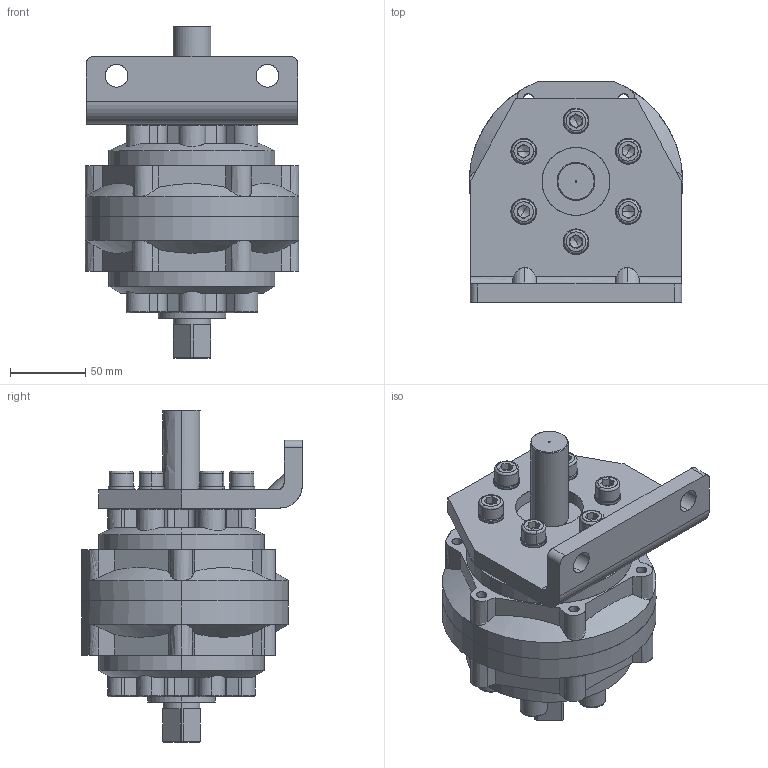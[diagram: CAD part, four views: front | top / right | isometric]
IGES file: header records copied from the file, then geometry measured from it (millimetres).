
Start section: SolidWorks IGES file using analytic representation for surfaces
Global section: file name: C:\Users\Chieh_Lu\Dropbox\¤u§@«Ç\PRN50-150-300-800\PRN300\PRN300\PRN300#-#-#-L1.IGS; native system: SolidWorks 2014; preprocessor: SolidWorks 2014; author: Chieh_Lu; date: 160115.004510; units: millimetre
Bounding box: 141.5 x 146.13 x 220 mm (x, y, z)
Surface area: 216442.7 mm2 (no closed solid volume)
Topology: 0 solids, 0 shells, 756 faces, 9781 edges, 9741 vertices
Faces by surface type: bspline 396, revolution 360
